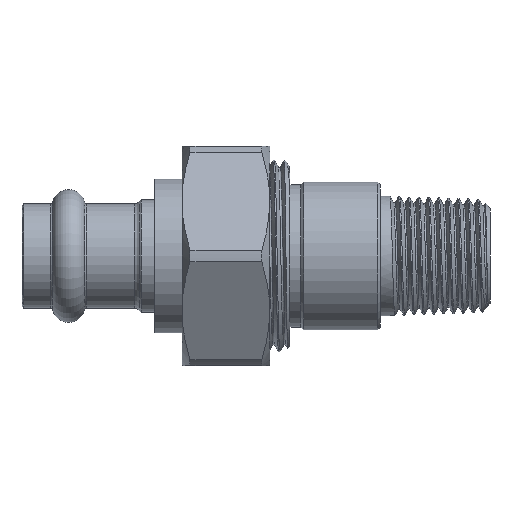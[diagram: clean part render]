
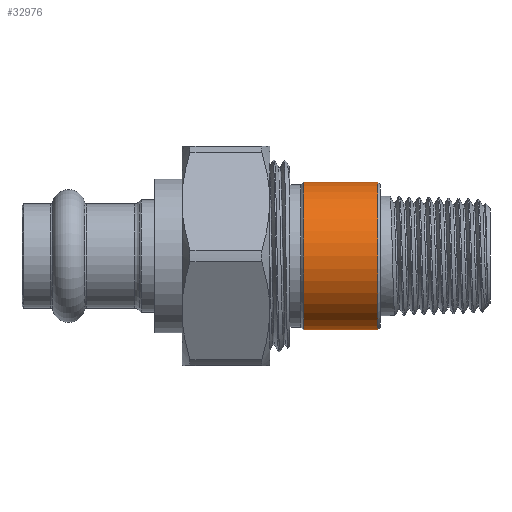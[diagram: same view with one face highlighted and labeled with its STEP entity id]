
A CAD part, front view. The second image highlights one B-rep face of the part: STEP entity #32976.
In plain terms, the highlighted cylindrical face has radius 0.532 mm (diameter 1.064 mm), a partial arc.
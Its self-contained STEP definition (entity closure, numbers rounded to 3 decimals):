
#12301 = VERTEX_POINT('',#12302);
#12302 = CARTESIAN_POINT('',(-27.175,0.,
    -7.585));
#12316 = CONICAL_SURFACE('',#12317,0.512,0.785);
#12317 = AXIS2_PLACEMENT_3D('',#12318,#12319,#12320);
#12318 = CARTESIAN_POINT('',(-27.195,0.,
    -8.117));
#12319 = DIRECTION('',(1.,0.,0.));
#12320 = DIRECTION('',(0.,0.,-1.));
#12329 = VERTEX_POINT('',#12330);
#12330 = CARTESIAN_POINT('',(-27.175,0.,
    -8.649));
#12345 = CYLINDRICAL_SURFACE('',#12346,0.532);
#12346 = AXIS2_PLACEMENT_3D('',#12347,#12348,#12349);
#12347 = CARTESIAN_POINT('',(-27.273,0.,
    -8.117));
#12348 = DIRECTION('',(1.,0.,0.));
#12349 = DIRECTION('',(0.,0.,-1.));
#12983 = VERTEX_POINT('',#12984);
#12984 = CARTESIAN_POINT('',(-26.643,0.,
    -8.649));
#12998 = CONICAL_SURFACE('',#12999,0.512,0.785);
#12999 = AXIS2_PLACEMENT_3D('',#13000,#13001,#13002);
#13000 = CARTESIAN_POINT('',(-26.623,0.,
    -8.117));
#13001 = DIRECTION('',(-1.,0.,0.));
#13002 = DIRECTION('',(0.,0.,1.));
#13011 = VERTEX_POINT('',#13012);
#13012 = CARTESIAN_POINT('',(-26.643,0.,
    -7.585));
#16220 = EDGE_CURVE('',#12301,#13011,#16221,.T.);
#16221 = SURFACE_CURVE('',#16222,(#16226,#16233),.PCURVE_S1.);
#16222 = LINE('',#16223,#16224);
#16223 = CARTESIAN_POINT('',(-27.273,0.,
    -7.585));
#16224 = VECTOR('',#16225,1.);
#16225 = DIRECTION('',(1.,0.,0.));
#16226 = PCURVE('',#12345,#16227);
#16227 = DEFINITIONAL_REPRESENTATION('',(#16228),#16232);
#16228 = LINE('',#16229,#16230);
#16229 = CARTESIAN_POINT('',(3.142,0.));
#16230 = VECTOR('',#16231,1.);
#16231 = DIRECTION('',(0.,1.));
#16232 = ( GEOMETRIC_REPRESENTATION_CONTEXT(2) 
PARAMETRIC_REPRESENTATION_CONTEXT() REPRESENTATION_CONTEXT('2D SPACE',''
  ) );
#16233 = PCURVE('',#16234,#16239);
#16234 = CYLINDRICAL_SURFACE('',#16235,0.532);
#16235 = AXIS2_PLACEMENT_3D('',#16236,#16237,#16238);
#16236 = CARTESIAN_POINT('',(-27.273,0.,
    -8.117));
#16237 = DIRECTION('',(1.,0.,0.));
#16238 = DIRECTION('',(0.,0.,-1.));
#16239 = DEFINITIONAL_REPRESENTATION('',(#16240),#16244);
#16240 = LINE('',#16241,#16242);
#16241 = CARTESIAN_POINT('',(3.142,0.));
#16242 = VECTOR('',#16243,1.);
#16243 = DIRECTION('',(0.,1.));
#16244 = ( GEOMETRIC_REPRESENTATION_CONTEXT(2) 
PARAMETRIC_REPRESENTATION_CONTEXT() REPRESENTATION_CONTEXT('2D SPACE',''
  ) );
#16247 = EDGE_CURVE('',#12329,#12983,#16248,.T.);
#16248 = SURFACE_CURVE('',#16249,(#16253,#16260),.PCURVE_S1.);
#16249 = LINE('',#16250,#16251);
#16250 = CARTESIAN_POINT('',(-27.273,0.,
    -8.649));
#16251 = VECTOR('',#16252,1.);
#16252 = DIRECTION('',(1.,0.,0.));
#16253 = PCURVE('',#12345,#16254);
#16254 = DEFINITIONAL_REPRESENTATION('',(#16255),#16259);
#16255 = LINE('',#16256,#16257);
#16256 = CARTESIAN_POINT('',(0.,0.));
#16257 = VECTOR('',#16258,1.);
#16258 = DIRECTION('',(0.,1.));
#16259 = ( GEOMETRIC_REPRESENTATION_CONTEXT(2) 
PARAMETRIC_REPRESENTATION_CONTEXT() REPRESENTATION_CONTEXT('2D SPACE',''
  ) );
#16260 = PCURVE('',#16234,#16261);
#16261 = DEFINITIONAL_REPRESENTATION('',(#16262),#16266);
#16262 = LINE('',#16263,#16264);
#16263 = CARTESIAN_POINT('',(6.283,0.));
#16264 = VECTOR('',#16265,1.);
#16265 = DIRECTION('',(0.,1.));
#16266 = ( GEOMETRIC_REPRESENTATION_CONTEXT(2) 
PARAMETRIC_REPRESENTATION_CONTEXT() REPRESENTATION_CONTEXT('2D SPACE',''
  ) );
#32976 = ADVANCED_FACE('',(#32977),#16234,.T.);
#32977 = FACE_BOUND('',#32978,.T.);
#32978 = EDGE_LOOP('',(#32979,#32980,#33002,#33003));
#32979 = ORIENTED_EDGE('',*,*,#16220,.F.);
#32980 = ORIENTED_EDGE('',*,*,#32981,.T.);
#32981 = EDGE_CURVE('',#12301,#12329,#32982,.T.);
#32982 = SURFACE_CURVE('',#32983,(#32988,#32995),.PCURVE_S1.);
#32983 = CIRCLE('',#32984,0.532);
#32984 = AXIS2_PLACEMENT_3D('',#32985,#32986,#32987);
#32985 = CARTESIAN_POINT('',(-27.175,0.,
    -8.117));
#32986 = DIRECTION('',(1.,0.,0.));
#32987 = DIRECTION('',(0.,0.,-1.));
#32988 = PCURVE('',#16234,#32989);
#32989 = DEFINITIONAL_REPRESENTATION('',(#32990),#32994);
#32990 = LINE('',#32991,#32992);
#32991 = CARTESIAN_POINT('',(0.,0.099));
#32992 = VECTOR('',#32993,1.);
#32993 = DIRECTION('',(1.,0.));
#32994 = ( GEOMETRIC_REPRESENTATION_CONTEXT(2) 
PARAMETRIC_REPRESENTATION_CONTEXT() REPRESENTATION_CONTEXT('2D SPACE',''
  ) );
#32995 = PCURVE('',#12316,#32996);
#32996 = DEFINITIONAL_REPRESENTATION('',(#32997),#33001);
#32997 = LINE('',#32998,#32999);
#32998 = CARTESIAN_POINT('',(0.,0.02));
#32999 = VECTOR('',#33000,1.);
#33000 = DIRECTION('',(1.,0.));
#33001 = ( GEOMETRIC_REPRESENTATION_CONTEXT(2) 
PARAMETRIC_REPRESENTATION_CONTEXT() REPRESENTATION_CONTEXT('2D SPACE',''
  ) );
#33002 = ORIENTED_EDGE('',*,*,#16247,.T.);
#33003 = ORIENTED_EDGE('',*,*,#33004,.T.);
#33004 = EDGE_CURVE('',#12983,#13011,#33005,.T.);
#33005 = SURFACE_CURVE('',#33006,(#33011,#33018),.PCURVE_S1.);
#33006 = CIRCLE('',#33007,0.532);
#33007 = AXIS2_PLACEMENT_3D('',#33008,#33009,#33010);
#33008 = CARTESIAN_POINT('',(-26.643,0.,
    -8.117));
#33009 = DIRECTION('',(-1.,0.,0.));
#33010 = DIRECTION('',(0.,0.,-1.));
#33011 = PCURVE('',#16234,#33012);
#33012 = DEFINITIONAL_REPRESENTATION('',(#33013),#33017);
#33013 = LINE('',#33014,#33015);
#33014 = CARTESIAN_POINT('',(6.283,0.63));
#33015 = VECTOR('',#33016,1.);
#33016 = DIRECTION('',(-1.,0.));
#33017 = ( GEOMETRIC_REPRESENTATION_CONTEXT(2) 
PARAMETRIC_REPRESENTATION_CONTEXT() REPRESENTATION_CONTEXT('2D SPACE',''
  ) );
#33018 = PCURVE('',#12998,#33019);
#33019 = DEFINITIONAL_REPRESENTATION('',(#33020),#33024);
#33020 = LINE('',#33021,#33022);
#33021 = CARTESIAN_POINT('',(3.142,0.02));
#33022 = VECTOR('',#33023,1.);
#33023 = DIRECTION('',(1.,0.));
#33024 = ( GEOMETRIC_REPRESENTATION_CONTEXT(2) 
PARAMETRIC_REPRESENTATION_CONTEXT() REPRESENTATION_CONTEXT('2D SPACE',''
  ) );
